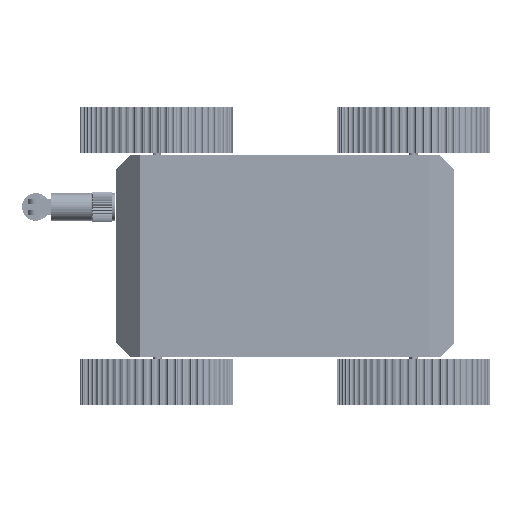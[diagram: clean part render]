
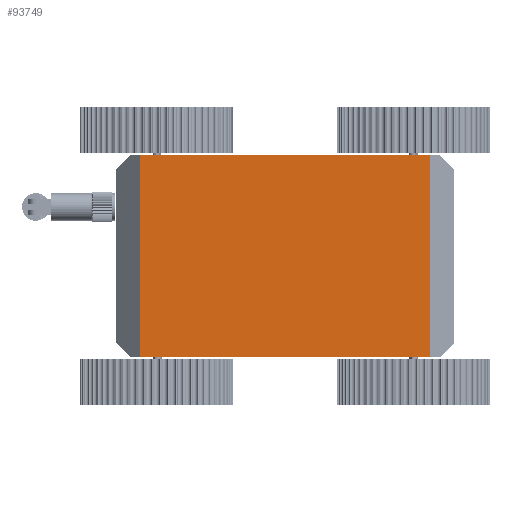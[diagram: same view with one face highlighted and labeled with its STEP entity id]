
A CAD part, front view. The second image highlights one B-rep face of the part: STEP entity #93749.
In plain terms, the highlighted planar face has unit normal (0, -1, 0).
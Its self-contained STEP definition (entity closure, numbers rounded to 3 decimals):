
#16469=FACE_OUTER_BOUND('',#21698,.T.);
#21698=EDGE_LOOP('',(#79899,#79900,#79901,#79902));
#28137=LINE('',#173114,#35107);
#28220=LINE('',#173383,#35190);
#28221=LINE('',#173385,#35191);
#28222=LINE('',#173386,#35192);
#35107=VECTOR('',#126870,10.);
#35190=VECTOR('',#127143,10.);
#35191=VECTOR('',#127144,10.);
#35192=VECTOR('',#127145,10.);
#43603=VERTEX_POINT('',#173110);
#43605=VERTEX_POINT('',#173113);
#43696=VERTEX_POINT('',#173382);
#43697=VERTEX_POINT('',#173384);
#56129=EDGE_CURVE('',#43605,#43603,#28137,.T.);
#56252=EDGE_CURVE('',#43605,#43696,#28220,.T.);
#56253=EDGE_CURVE('',#43697,#43603,#28221,.T.);
#56254=EDGE_CURVE('',#43697,#43696,#28222,.T.);
#79899=ORIENTED_EDGE('',*,*,#56252,.F.);
#79900=ORIENTED_EDGE('',*,*,#56129,.T.);
#79901=ORIENTED_EDGE('',*,*,#56253,.F.);
#79902=ORIENTED_EDGE('',*,*,#56254,.T.);
#89791=PLANE('',#103412);
#93749=ADVANCED_FACE('',(#16469),#89791,.T.);
#103412=AXIS2_PLACEMENT_3D('',#173381,#127141,#127142);
#126870=DIRECTION('',(-1.,0.,0.));
#127141=DIRECTION('center_axis',(0.,-1.,0.));
#127142=DIRECTION('ref_axis',(0.,0.,-1.));
#127143=DIRECTION('',(0.,0.,-1.));
#127144=DIRECTION('',(0.,0.,1.));
#127145=DIRECTION('',(1.,0.,0.));
#173110=CARTESIAN_POINT('',(-29.889,-9.49,30.816));
#173113=CARTESIAN_POINT('',(64.638,-9.49,30.816));
#173114=CARTESIAN_POINT('',(72.449,-9.49,30.816));
#173381=CARTESIAN_POINT('Origin',(17.375,-9.49,-2.213));
#173382=CARTESIAN_POINT('',(64.638,-9.49,-35.241));
#173383=CARTESIAN_POINT('',(64.638,-9.49,6.044));
#173384=CARTESIAN_POINT('',(-29.889,-9.49,-35.241));
#173385=CARTESIAN_POINT('',(-29.889,-9.49,-10.47));
#173386=CARTESIAN_POINT('',(-37.7,-9.49,-35.241));
